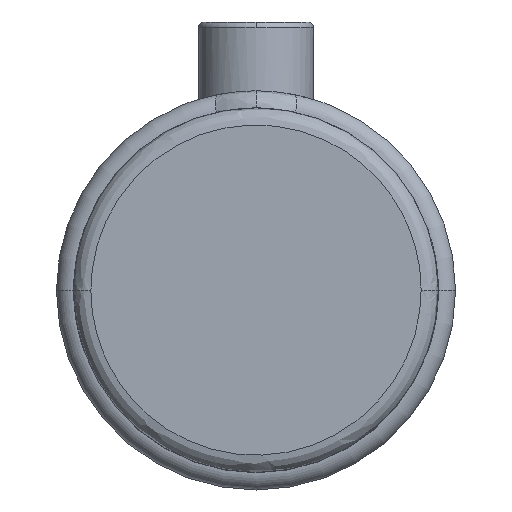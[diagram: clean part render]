
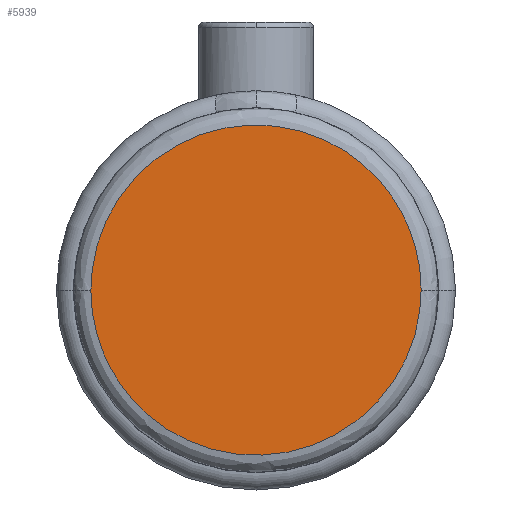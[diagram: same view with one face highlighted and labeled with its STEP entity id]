
A CAD part, top view. The second image highlights one B-rep face of the part: STEP entity #5939.
In plain terms, the highlighted planar face has unit normal (0, 0, 1).
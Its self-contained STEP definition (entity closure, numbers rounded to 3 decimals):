
#106 = CARTESIAN_POINT ( 'NONE',  ( -28.75, -57.5, 38. ) ) ;
#287 =( BOUNDED_CURVE ( )  B_SPLINE_CURVE ( 3, ( #1802, #3273, #5434, #1098 ),
 .UNSPECIFIED., .F., .F. ) 
 B_SPLINE_CURVE_WITH_KNOTS ( ( 4, 4 ),
 ( 0.75, 1.25 ),
 .UNSPECIFIED. ) 
 CURVE ( )  GEOMETRIC_REPRESENTATION_ITEM ( )  RATIONAL_B_SPLINE_CURVE ( ( 1., 0.333, 0.333, 1. ) ) 
 REPRESENTATION_ITEM ( '' )  );
#351 = ORIENTED_EDGE ( 'NONE', *, *, #3292, .F. ) ;
#1068 = PLANE ( 'NONE',  #1550 ) ;
#1098 = CARTESIAN_POINT ( 'NONE',  ( 28.75, 0., 38. ) ) ;
#1164 = VERTEX_POINT ( 'NONE', #8834 ) ;
#1550 = AXIS2_PLACEMENT_3D ( 'NONE', #8276, #6144, #1799 ) ;
#1799 = DIRECTION ( 'NONE',  ( 0., -1., 0. ) ) ;
#1802 = CARTESIAN_POINT ( 'NONE',  ( -28.75, 0., 38. ) ) ;
#3273 = CARTESIAN_POINT ( 'NONE',  ( -28.75, 57.5, 38. ) ) ;
#3292 = EDGE_CURVE ( 'NONE', #8715, #1164, #287, .T. ) ;
#3738 = EDGE_LOOP ( 'NONE', ( #8479, #351 ) ) ;
#5059 = CARTESIAN_POINT ( 'NONE',  ( 28.75, -57.5, 38. ) ) ;
#5157 = CARTESIAN_POINT ( 'NONE',  ( -28.75, 0., 38. ) ) ;
#5434 = CARTESIAN_POINT ( 'NONE',  ( 28.75, 57.5, 38. ) ) ;
#5939 = ADVANCED_FACE ( 'NONE', ( #9003 ), #1068, .T. ) ;
#6144 = DIRECTION ( 'NONE',  ( 0., 0., 1. ) ) ;
#6653 =( BOUNDED_CURVE ( )  B_SPLINE_CURVE ( 3, ( #8040, #5059, #106, #5157 ),
 .UNSPECIFIED., .F., .F. ) 
 B_SPLINE_CURVE_WITH_KNOTS ( ( 4, 4 ),
 ( 0.25, 0.75 ),
 .UNSPECIFIED. ) 
 CURVE ( )  GEOMETRIC_REPRESENTATION_ITEM ( )  RATIONAL_B_SPLINE_CURVE ( ( 1., 0.333, 0.333, 1. ) ) 
 REPRESENTATION_ITEM ( '' )  );
#7566 = CARTESIAN_POINT ( 'NONE',  ( -28.75, 0., 38. ) ) ;
#8040 = CARTESIAN_POINT ( 'NONE',  ( 28.75, 0., 38. ) ) ;
#8276 = CARTESIAN_POINT ( 'NONE',  ( 0., 15.875, 38. ) ) ;
#8479 = ORIENTED_EDGE ( 'NONE', *, *, #9255, .F. ) ;
#8715 = VERTEX_POINT ( 'NONE', #7566 ) ;
#8834 = CARTESIAN_POINT ( 'NONE',  ( 28.75, 0., 38. ) ) ;
#9003 = FACE_OUTER_BOUND ( 'NONE', #3738, .T. ) ;
#9255 = EDGE_CURVE ( 'NONE', #1164, #8715, #6653, .T. ) ;
